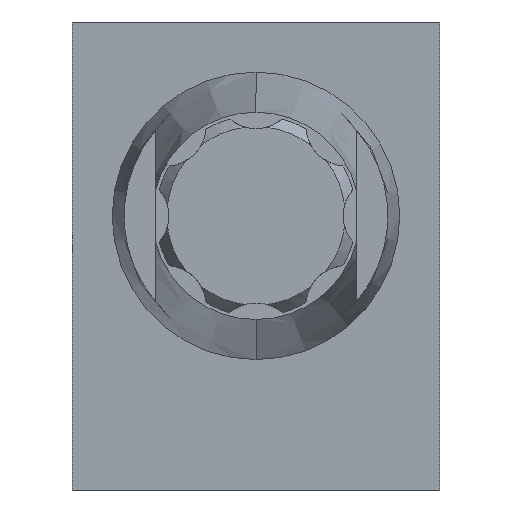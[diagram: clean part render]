
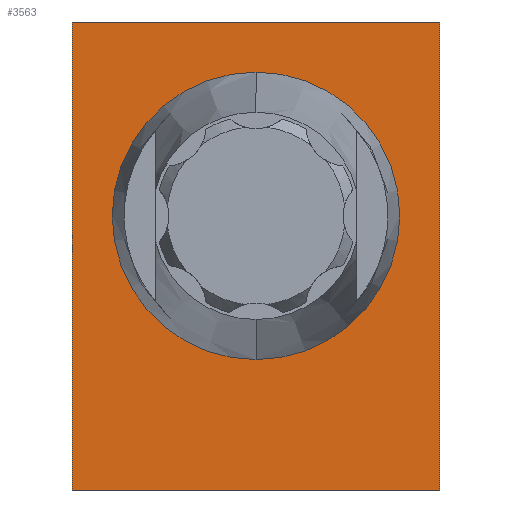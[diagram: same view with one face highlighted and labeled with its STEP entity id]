
A CAD part, left-side view. The second image highlights one B-rep face of the part: STEP entity #3563.
In plain terms, the highlighted planar face has unit normal (-1, 0, 0).
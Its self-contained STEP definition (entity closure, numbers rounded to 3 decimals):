
#739 = EDGE_CURVE ( 'NONE', #7885, #17840, #7796, .T. ) ;
#1231 = CARTESIAN_POINT ( 'NONE',  ( 0., 27.5, -29. ) ) ;
#1235 = CARTESIAN_POINT ( 'NONE',  ( 0., 55., 0. ) ) ;
#2264 = VECTOR ( 'NONE', #4177, 1000. ) ;
#2615 = DIRECTION ( 'NONE',  ( 0., 0., -1. ) ) ;
#2662 = PLANE ( 'NONE',  #6102 ) ;
#3468 = AXIS2_PLACEMENT_3D ( 'NONE', #12045, #12093, #12108 ) ;
#3563 = ADVANCED_FACE ( 'NONE', ( #7051, #14625 ), #2662, .F. ) ;
#3704 = EDGE_CURVE ( 'NONE', #8359, #12439, #12860, .T. ) ;
#4058 = DIRECTION ( 'NONE',  ( 0., 0., -1. ) ) ;
#4177 = DIRECTION ( 'NONE',  ( 0., -1., 0. ) ) ;
#4567 = DIRECTION ( 'NONE',  ( 0., 0., 1. ) ) ;
#4728 = EDGE_CURVE ( 'NONE', #5721, #17274, #13051, .T. ) ;
#5043 = CIRCLE ( 'NONE', #17103, 21.5 ) ;
#5391 = DIRECTION ( 'NONE',  ( 0., 0., 1. ) ) ;
#5436 = EDGE_CURVE ( 'NONE', #17840, #7885, #5043, .T. ) ;
#5721 = VERTEX_POINT ( 'NONE', #10885 ) ;
#5920 = ORIENTED_EDGE ( 'NONE', *, *, #6658, .T. ) ;
#6102 = AXIS2_PLACEMENT_3D ( 'NONE', #9633, #12512, #4058 ) ;
#6342 = ORIENTED_EDGE ( 'NONE', *, *, #4728, .F. ) ;
#6358 = CARTESIAN_POINT ( 'NONE',  ( 0., 27.5, -50.5 ) ) ;
#6658 = EDGE_CURVE ( 'NONE', #12439, #17274, #17220, .T. ) ;
#7051 = FACE_OUTER_BOUND ( 'NONE', #10707, .T. ) ;
#7594 = CARTESIAN_POINT ( 'NONE',  ( 0., 0., -70. ) ) ;
#7796 = CIRCLE ( 'NONE', #3468, 21.5 ) ;
#7853 = CARTESIAN_POINT ( 'NONE',  ( 0., 55., -70. ) ) ;
#7885 = VERTEX_POINT ( 'NONE', #11554 ) ;
#8359 = VERTEX_POINT ( 'NONE', #16037 ) ;
#8795 = ORIENTED_EDGE ( 'NONE', *, *, #5436, .F. ) ;
#8822 = ORIENTED_EDGE ( 'NONE', *, *, #739, .F. ) ;
#9293 = DIRECTION ( 'NONE',  ( 0., -1., 0. ) ) ;
#9307 = ORIENTED_EDGE ( 'NONE', *, *, #12636, .F. ) ;
#9633 = CARTESIAN_POINT ( 'NONE',  ( 0., 55., 0. ) ) ;
#9646 = VECTOR ( 'NONE', #4567, 1000. ) ;
#10390 = VECTOR ( 'NONE', #5391, 1000. ) ;
#10471 = EDGE_LOOP ( 'NONE', ( #8795, #8822 ) ) ;
#10707 = EDGE_LOOP ( 'NONE', ( #5920, #6342, #9307, #17768 ) ) ;
#10885 = CARTESIAN_POINT ( 'NONE',  ( 0., 55., 0. ) ) ;
#11024 = DIRECTION ( 'NONE',  ( -1., 0., 0. ) ) ;
#11554 = CARTESIAN_POINT ( 'NONE',  ( 0., 27.5, -7.5 ) ) ;
#12045 = CARTESIAN_POINT ( 'NONE',  ( 0., 27.5, -29. ) ) ;
#12093 = DIRECTION ( 'NONE',  ( -1., 0., 0. ) ) ;
#12108 = DIRECTION ( 'NONE',  ( 0., 0., -1. ) ) ;
#12439 = VERTEX_POINT ( 'NONE', #7594 ) ;
#12512 = DIRECTION ( 'NONE',  ( 1., 0., 0. ) ) ;
#12636 = EDGE_CURVE ( 'NONE', #8359, #5721, #14183, .T. ) ;
#12860 = LINE ( 'NONE', #7853, #16169 ) ;
#13051 = LINE ( 'NONE', #14051, #2264 ) ;
#14051 = CARTESIAN_POINT ( 'NONE',  ( 0., 55., 0. ) ) ;
#14183 = LINE ( 'NONE', #1235, #10390 ) ;
#14468 = CARTESIAN_POINT ( 'NONE',  ( 0., 0., 0. ) ) ;
#14625 = FACE_BOUND ( 'NONE', #10471, .T. ) ;
#16037 = CARTESIAN_POINT ( 'NONE',  ( 0., 55., -70. ) ) ;
#16169 = VECTOR ( 'NONE', #9293, 1000. ) ;
#16391 = CARTESIAN_POINT ( 'NONE',  ( 0., 0., 0. ) ) ;
#17103 = AXIS2_PLACEMENT_3D ( 'NONE', #1231, #11024, #2615 ) ;
#17220 = LINE ( 'NONE', #14468, #9646 ) ;
#17274 = VERTEX_POINT ( 'NONE', #16391 ) ;
#17768 = ORIENTED_EDGE ( 'NONE', *, *, #3704, .T. ) ;
#17840 = VERTEX_POINT ( 'NONE', #6358 ) ;
